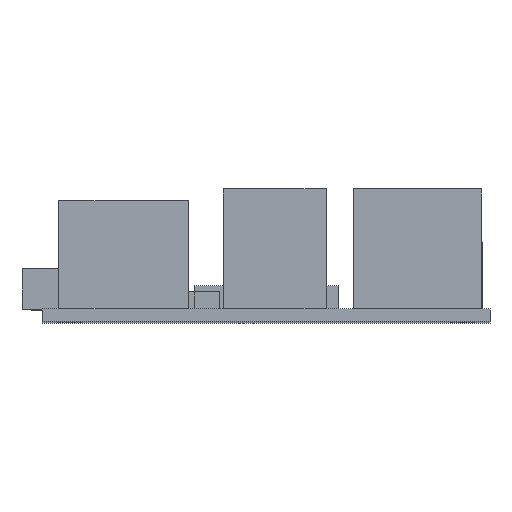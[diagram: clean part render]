
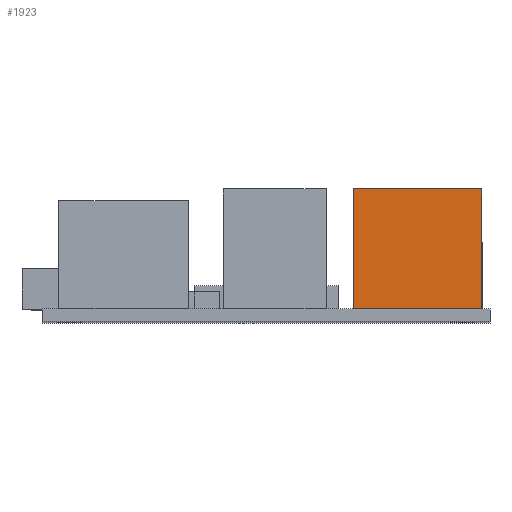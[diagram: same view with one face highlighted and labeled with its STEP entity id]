
A CAD part, top view. The second image highlights one B-rep face of the part: STEP entity #1923.
In plain terms, the highlighted planar face has unit normal (0, 0, 1).
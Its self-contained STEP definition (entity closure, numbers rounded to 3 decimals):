
#1731 = EDGE_CURVE('',#1732,#1734,#1736,.T.);
#1732 = VERTEX_POINT('',#1733);
#1733 = CARTESIAN_POINT('',(10.954,1.6,55.082));
#1734 = VERTEX_POINT('',#1735);
#1735 = CARTESIAN_POINT('',(26.954,1.6,55.082));
#1736 = SURFACE_CURVE('',#1737,(#1741,#1753),.PCURVE_S1.);
#1737 = LINE('',#1738,#1739);
#1738 = CARTESIAN_POINT('',(10.954,1.6,55.082));
#1739 = VECTOR('',#1740,1.);
#1740 = DIRECTION('',(1.,0.,0.));
#1741 = PCURVE('',#1742,#1747);
#1742 = PLANE('',#1743);
#1743 = AXIS2_PLACEMENT_3D('',#1744,#1745,#1746);
#1744 = CARTESIAN_POINT('',(10.954,1.6,37.832));
#1745 = DIRECTION('',(-0.,1.,0.));
#1746 = DIRECTION('',(0.,0.,1.));
#1747 = DEFINITIONAL_REPRESENTATION('',(#1748),#1752);
#1748 = LINE('',#1749,#1750);
#1749 = CARTESIAN_POINT('',(17.25,0.));
#1750 = VECTOR('',#1751,1.);
#1751 = DIRECTION('',(0.,1.));
#1752 = ( GEOMETRIC_REPRESENTATION_CONTEXT(2) 
PARAMETRIC_REPRESENTATION_CONTEXT() REPRESENTATION_CONTEXT('2D SPACE',''
  ) );
#1753 = PCURVE('',#1754,#1759);
#1754 = PLANE('',#1755);
#1755 = AXIS2_PLACEMENT_3D('',#1756,#1757,#1758);
#1756 = CARTESIAN_POINT('',(10.954,1.6,55.082));
#1757 = DIRECTION('',(0.,0.,1.));
#1758 = DIRECTION('',(1.,0.,-0.));
#1759 = DEFINITIONAL_REPRESENTATION('',(#1760),#1764);
#1760 = LINE('',#1761,#1762);
#1761 = CARTESIAN_POINT('',(0.,0.));
#1762 = VECTOR('',#1763,1.);
#1763 = DIRECTION('',(1.,0.));
#1764 = ( GEOMETRIC_REPRESENTATION_CONTEXT(2) 
PARAMETRIC_REPRESENTATION_CONTEXT() REPRESENTATION_CONTEXT('2D SPACE',''
  ) );
#1782 = PLANE('',#1783);
#1783 = AXIS2_PLACEMENT_3D('',#1784,#1785,#1786);
#1784 = CARTESIAN_POINT('',(10.954,1.6,37.832));
#1785 = DIRECTION('',(1.,0.,-0.));
#1786 = DIRECTION('',(-0.,0.,-1.));
#1836 = PLANE('',#1837);
#1837 = AXIS2_PLACEMENT_3D('',#1838,#1839,#1840);
#1838 = CARTESIAN_POINT('',(26.954,1.6,37.832));
#1839 = DIRECTION('',(1.,0.,-0.));
#1840 = DIRECTION('',(-0.,0.,-1.));
#1854 = VERTEX_POINT('',#1855);
#1855 = CARTESIAN_POINT('',(26.954,16.6,55.082));
#1869 = PLANE('',#1870);
#1870 = AXIS2_PLACEMENT_3D('',#1871,#1872,#1873);
#1871 = CARTESIAN_POINT('',(10.954,16.6,37.832));
#1872 = DIRECTION('',(-0.,1.,0.));
#1873 = DIRECTION('',(0.,0.,1.));
#1881 = EDGE_CURVE('',#1854,#1734,#1882,.T.);
#1882 = SURFACE_CURVE('',#1883,(#1887,#1894),.PCURVE_S1.);
#1883 = LINE('',#1884,#1885);
#1884 = CARTESIAN_POINT('',(26.954,1.6,55.082));
#1885 = VECTOR('',#1886,1.);
#1886 = DIRECTION('',(-0.,-1.,-0.));
#1887 = PCURVE('',#1836,#1888);
#1888 = DEFINITIONAL_REPRESENTATION('',(#1889),#1893);
#1889 = LINE('',#1890,#1891);
#1890 = CARTESIAN_POINT('',(-17.25,0.));
#1891 = VECTOR('',#1892,1.);
#1892 = DIRECTION('',(0.,-1.));
#1893 = ( GEOMETRIC_REPRESENTATION_CONTEXT(2) 
PARAMETRIC_REPRESENTATION_CONTEXT() REPRESENTATION_CONTEXT('2D SPACE',''
  ) );
#1894 = PCURVE('',#1754,#1895);
#1895 = DEFINITIONAL_REPRESENTATION('',(#1896),#1900);
#1896 = LINE('',#1897,#1898);
#1897 = CARTESIAN_POINT('',(16.,0.));
#1898 = VECTOR('',#1899,1.);
#1899 = DIRECTION('',(0.,-1.));
#1900 = ( GEOMETRIC_REPRESENTATION_CONTEXT(2) 
PARAMETRIC_REPRESENTATION_CONTEXT() REPRESENTATION_CONTEXT('2D SPACE',''
  ) );
#1923 = ADVANCED_FACE('',(#1924),#1754,.T.);
#1924 = FACE_BOUND('',#1925,.T.);
#1925 = EDGE_LOOP('',(#1926,#1927,#1950,#1971));
#1926 = ORIENTED_EDGE('',*,*,#1881,.F.);
#1927 = ORIENTED_EDGE('',*,*,#1928,.T.);
#1928 = EDGE_CURVE('',#1854,#1929,#1931,.T.);
#1929 = VERTEX_POINT('',#1930);
#1930 = CARTESIAN_POINT('',(10.954,16.6,55.082));
#1931 = SURFACE_CURVE('',#1932,(#1936,#1943),.PCURVE_S1.);
#1932 = LINE('',#1933,#1934);
#1933 = CARTESIAN_POINT('',(10.954,16.6,55.082));
#1934 = VECTOR('',#1935,1.);
#1935 = DIRECTION('',(-1.,-0.,0.));
#1936 = PCURVE('',#1754,#1937);
#1937 = DEFINITIONAL_REPRESENTATION('',(#1938),#1942);
#1938 = LINE('',#1939,#1940);
#1939 = CARTESIAN_POINT('',(0.,15.));
#1940 = VECTOR('',#1941,1.);
#1941 = DIRECTION('',(-1.,0.));
#1942 = ( GEOMETRIC_REPRESENTATION_CONTEXT(2) 
PARAMETRIC_REPRESENTATION_CONTEXT() REPRESENTATION_CONTEXT('2D SPACE',''
  ) );
#1943 = PCURVE('',#1869,#1944);
#1944 = DEFINITIONAL_REPRESENTATION('',(#1945),#1949);
#1945 = LINE('',#1946,#1947);
#1946 = CARTESIAN_POINT('',(17.25,0.));
#1947 = VECTOR('',#1948,1.);
#1948 = DIRECTION('',(0.,-1.));
#1949 = ( GEOMETRIC_REPRESENTATION_CONTEXT(2) 
PARAMETRIC_REPRESENTATION_CONTEXT() REPRESENTATION_CONTEXT('2D SPACE',''
  ) );
#1950 = ORIENTED_EDGE('',*,*,#1951,.T.);
#1951 = EDGE_CURVE('',#1929,#1732,#1952,.T.);
#1952 = SURFACE_CURVE('',#1953,(#1957,#1964),.PCURVE_S1.);
#1953 = LINE('',#1954,#1955);
#1954 = CARTESIAN_POINT('',(10.954,1.6,55.082));
#1955 = VECTOR('',#1956,1.);
#1956 = DIRECTION('',(0.,-1.,-0.));
#1957 = PCURVE('',#1754,#1958);
#1958 = DEFINITIONAL_REPRESENTATION('',(#1959),#1963);
#1959 = LINE('',#1960,#1961);
#1960 = CARTESIAN_POINT('',(0.,0.));
#1961 = VECTOR('',#1962,1.);
#1962 = DIRECTION('',(0.,-1.));
#1963 = ( GEOMETRIC_REPRESENTATION_CONTEXT(2) 
PARAMETRIC_REPRESENTATION_CONTEXT() REPRESENTATION_CONTEXT('2D SPACE',''
  ) );
#1964 = PCURVE('',#1782,#1965);
#1965 = DEFINITIONAL_REPRESENTATION('',(#1966),#1970);
#1966 = LINE('',#1967,#1968);
#1967 = CARTESIAN_POINT('',(-17.25,0.));
#1968 = VECTOR('',#1969,1.);
#1969 = DIRECTION('',(-0.,-1.));
#1970 = ( GEOMETRIC_REPRESENTATION_CONTEXT(2) 
PARAMETRIC_REPRESENTATION_CONTEXT() REPRESENTATION_CONTEXT('2D SPACE',''
  ) );
#1971 = ORIENTED_EDGE('',*,*,#1731,.T.);
